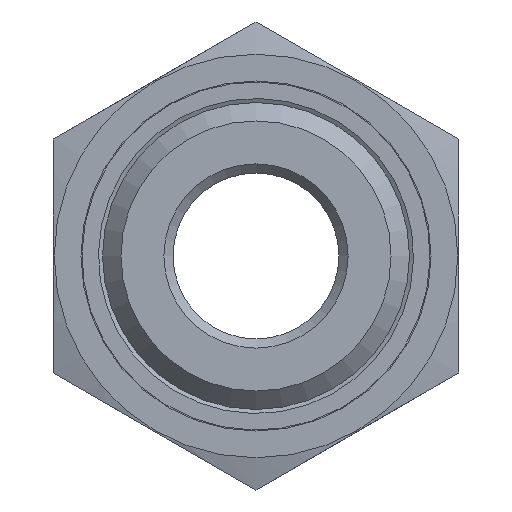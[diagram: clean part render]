
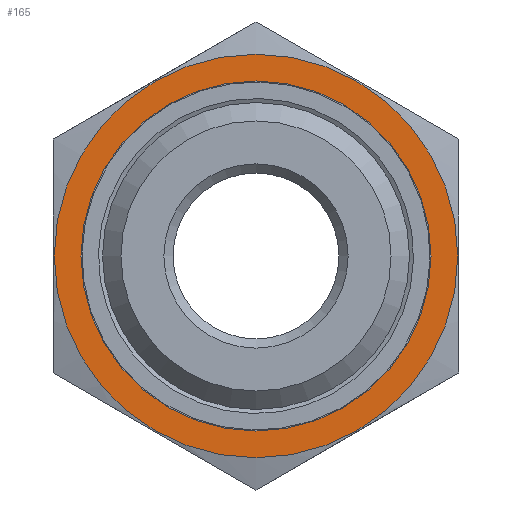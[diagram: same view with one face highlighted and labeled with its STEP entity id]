
A CAD part, left-side view. The second image highlights one B-rep face of the part: STEP entity #165.
In plain terms, the highlighted planar face has unit normal (-1, 0, 0).
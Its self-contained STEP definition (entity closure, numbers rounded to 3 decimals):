
#165 = ADVANCED_FACE( '', ( #331, #332 ), #333, .F. );
#331 = FACE_BOUND( '', #487, .T. );
#332 = FACE_OUTER_BOUND( '', #488, .T. );
#333 = PLANE( '', #489 );
#487 = EDGE_LOOP( '', ( #721 ) );
#488 = EDGE_LOOP( '', ( #722 ) );
#489 = AXIS2_PLACEMENT_3D( '', #723, #724, #725 );
#721 = ORIENTED_EDGE( '', *, *, #773, .F. );
#722 = ORIENTED_EDGE( '', *, *, #816, .T. );
#723 = CARTESIAN_POINT( '', ( -19.5, 0., 10.95 ) );
#724 = DIRECTION( '', ( 1., 0., 0. ) );
#725 = DIRECTION( '', ( 0., 0., -1. ) );
#773 = EDGE_CURVE( '', #870, #870, #871, .T. );
#816 = EDGE_CURVE( '', #936, #936, #937, .T. );
#870 = VERTEX_POINT( '', #1047 );
#871 = CIRCLE( '', #1048, 9.5 );
#936 = VERTEX_POINT( '', #1123 );
#937 = CIRCLE( '', #1124, 10.95 );
#1047 = CARTESIAN_POINT( '', ( -19.5, 0., 9.5 ) );
#1048 = AXIS2_PLACEMENT_3D( '', #1220, #1221, #1222 );
#1123 = CARTESIAN_POINT( '', ( -19.5, 0., 10.95 ) );
#1124 = AXIS2_PLACEMENT_3D( '', #1285, #1286, #1287 );
#1220 = CARTESIAN_POINT( '', ( -19.5, 0., 0. ) );
#1221 = DIRECTION( '', ( -1., 0., 0. ) );
#1222 = DIRECTION( '', ( 0., 0., 1. ) );
#1285 = CARTESIAN_POINT( '', ( -19.5, 0., 0. ) );
#1286 = DIRECTION( '', ( -1., 0., 0. ) );
#1287 = DIRECTION( '', ( 0., 0., 1. ) );
